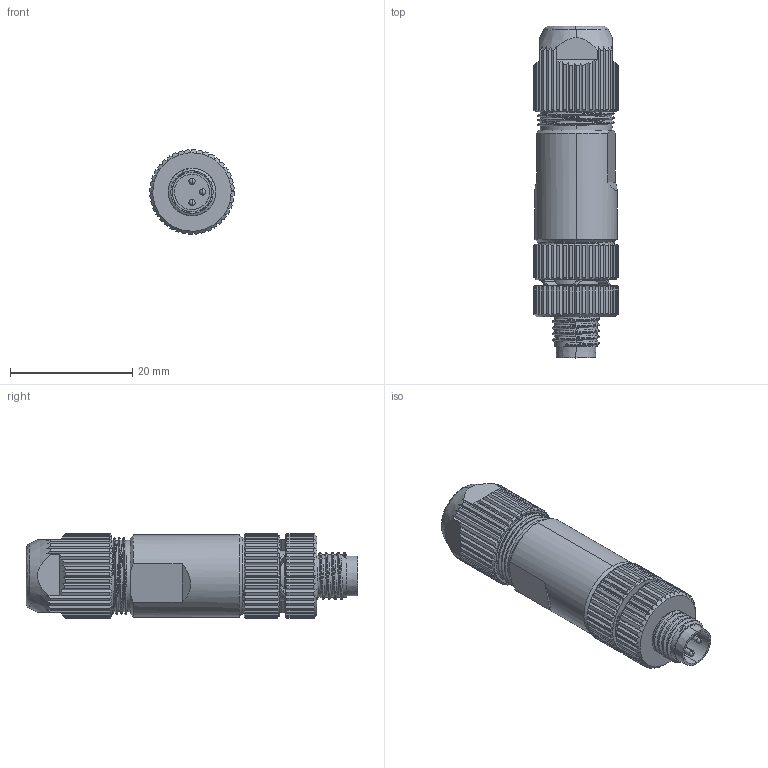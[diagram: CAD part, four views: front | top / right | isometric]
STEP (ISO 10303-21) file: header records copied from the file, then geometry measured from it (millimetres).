
FILE_DESCRIPTION (( 'STEP AP203' ), '1' );
FILE_NAME ('63f261.STEP', '2023-01-15T08:01:09', ( '' ), ( '' ), 'SwSTEP 2.0', 'SolidWorks 2016', '' );
FILE_SCHEMA (( 'CONFIG_CONTROL_DESIGN' ));
Length unit declared in the file: millimetre
Products named in the file (1): 63f261
Bounding box: 13.8 x 54.2 x 13.8 mm (x, y, z)
Volume: 5593.4 mm3; surface area: 5769.5 mm2
Topology: 1 solids, 8 shells, 957 faces, 2945 edges, 1978 vertices
Faces by surface type: plane 351, cylinder 279, cone 248, bspline 73, sphere 6
Entity records: 52642 total; most frequent: CARTESIAN_POINT 29134, ORIENTED_EDGE 5844, DIRECTION 3655, EDGE_CURVE 2922, VERTEX_POINT 1972, B_SPLINE_CURVE_WITH_KNOTS 1559, AXIS2_PLACEMENT_3D 1413, EDGE_LOOP 994
